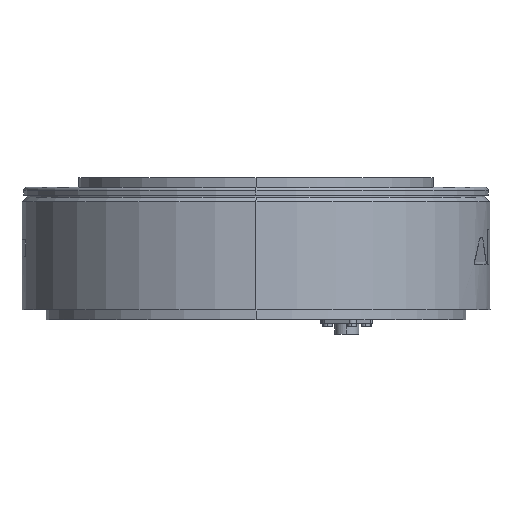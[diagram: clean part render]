
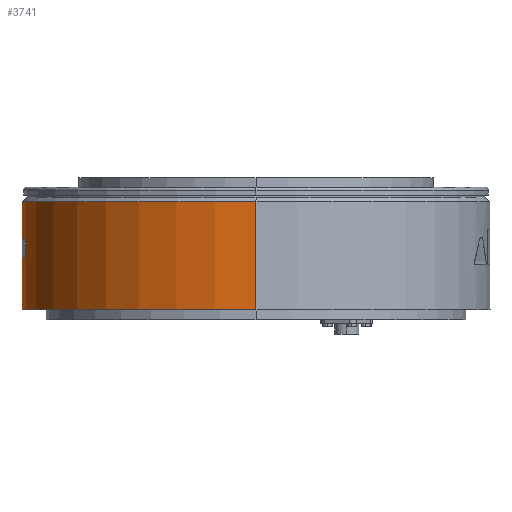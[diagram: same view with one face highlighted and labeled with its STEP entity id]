
A CAD part, left-side view. The second image highlights one B-rep face of the part: STEP entity #3741.
In plain terms, the highlighted cylindrical face has radius 145 mm (diameter 290 mm), a partial arc.
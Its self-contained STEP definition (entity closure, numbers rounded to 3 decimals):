
#23 = CARTESIAN_POINT ( 'NONE',  ( 25., 142.829, 49.5 ) ) ;
#79 = CARTESIAN_POINT ( 'NONE',  ( -145., 0., 73. ) ) ;
#1470 = CIRCLE ( 'NONE', #4140, 145. ) ;
#1474 = LINE ( 'NONE', #6440, #1475 ) ;
#1475 = VECTOR ( 'NONE', #6741, 1000. ) ;
#1624 = VECTOR ( 'NONE', #6086, 1000. ) ;
#1627 = VECTOR ( 'NONE', #6064, 1000. ) ;
#1629 = LINE ( 'NONE', #6071, #1627 ) ;
#1631 = LINE ( 'NONE', #6069, #1624 ) ;
#1632 = CIRCLE ( 'NONE', #4196, 145. ) ;
#1633 = LINE ( 'NONE', #6097, #1634 ) ;
#1634 = VECTOR ( 'NONE', #6098, 1000. ) ;
#1636 = CIRCLE ( 'NONE', #4198, 145. ) ;
#1640 = CIRCLE ( 'NONE', #4195, 145. ) ;
#1758 = CARTESIAN_POINT ( 'NONE',  ( 145., 0., 73. ) ) ;
#1768 = CARTESIAN_POINT ( 'NONE',  ( 145., 0., 6. ) ) ;
#1810 = CARTESIAN_POINT ( 'NONE',  ( -25., 142.829, 39. ) ) ;
#1812 = CARTESIAN_POINT ( 'NONE',  ( -145., 0., 6. ) ) ;
#2282 = FACE_BOUND ( 'NONE', #7133, .T. ) ;
#2284 = CYLINDRICAL_SURFACE ( 'NONE', #4030, 145. ) ;
#2290 = FACE_OUTER_BOUND ( 'NONE', #7156, .T. ) ;
#2478 = ORIENTED_EDGE ( 'NONE', *, *, #7759, .F. ) ;
#2502 = ORIENTED_EDGE ( 'NONE', *, *, #7763, .F. ) ;
#2519 = ORIENTED_EDGE ( 'NONE', *, *, #7764, .F. ) ;
#2523 = ORIENTED_EDGE ( 'NONE', *, *, #7653, .F. ) ;
#2548 = ORIENTED_EDGE ( 'NONE', *, *, #7761, .F. ) ;
#2683 = ORIENTED_EDGE ( 'NONE', *, *, #7762, .T. ) ;
#2765 = ORIENTED_EDGE ( 'NONE', *, *, #7760, .F. ) ;
#2828 = ORIENTED_EDGE ( 'NONE', *, *, #7657, .T. ) ;
#2918 = CARTESIAN_POINT ( 'NONE',  ( -25., 142.829, 49.5 ) ) ;
#2972 = CARTESIAN_POINT ( 'NONE',  ( 25., 142.829, 39. ) ) ;
#3741 = ADVANCED_FACE ( 'NONE', ( #2282, #2290 ), #2284, .T. ) ;
#4030 = AXIS2_PLACEMENT_3D ( 'NONE', #5332, #5316, #5343 ) ;
#4140 = AXIS2_PLACEMENT_3D ( 'NONE', #6261, #6594, #6453 ) ;
#4195 = AXIS2_PLACEMENT_3D ( 'NONE', #6062, #6090, #6082 ) ;
#4196 = AXIS2_PLACEMENT_3D ( 'NONE', #6099, #6068, #6085 ) ;
#4198 = AXIS2_PLACEMENT_3D ( 'NONE', #6083, #6101, #6075 ) ;
#4252 = VERTEX_POINT ( 'NONE', #2972 ) ;
#4280 = VERTEX_POINT ( 'NONE', #2918 ) ;
#4363 = VERTEX_POINT ( 'NONE', #23 ) ;
#4369 = VERTEX_POINT ( 'NONE', #79 ) ;
#4463 = VERTEX_POINT ( 'NONE', #1768 ) ;
#4470 = VERTEX_POINT ( 'NONE', #1758 ) ;
#4486 = VERTEX_POINT ( 'NONE', #1812 ) ;
#4526 = VERTEX_POINT ( 'NONE', #1810 ) ;
#5316 = DIRECTION ( 'NONE',  ( 0., 0., -1. ) ) ;
#5332 = CARTESIAN_POINT ( 'NONE',  ( 0., 0., 0. ) ) ;
#5343 = DIRECTION ( 'NONE',  ( -1., 0., 0. ) ) ;
#6062 = CARTESIAN_POINT ( 'NONE',  ( 0., 0., 6. ) ) ;
#6064 = DIRECTION ( 'NONE',  ( 0., 0., 1. ) ) ;
#6068 = DIRECTION ( 'NONE',  ( 0., 0., -1. ) ) ;
#6069 = CARTESIAN_POINT ( 'NONE',  ( -145., 0., 0. ) ) ;
#6071 = CARTESIAN_POINT ( 'NONE',  ( -25., 142.829, 0. ) ) ;
#6075 = DIRECTION ( 'NONE',  ( -1., 0., 0. ) ) ;
#6082 = DIRECTION ( 'NONE',  ( -1., 0., 0. ) ) ;
#6083 = CARTESIAN_POINT ( 'NONE',  ( 0., 0., 73. ) ) ;
#6085 = DIRECTION ( 'NONE',  ( 1., 0., 0. ) ) ;
#6086 = DIRECTION ( 'NONE',  ( 0., 0., -1. ) ) ;
#6090 = DIRECTION ( 'NONE',  ( 0., 0., -1. ) ) ;
#6097 = CARTESIAN_POINT ( 'NONE',  ( 25., 142.829, 0. ) ) ;
#6098 = DIRECTION ( 'NONE',  ( 0., 0., -1. ) ) ;
#6099 = CARTESIAN_POINT ( 'NONE',  ( 0., 0., 49.5 ) ) ;
#6101 = DIRECTION ( 'NONE',  ( 0., 0., -1. ) ) ;
#6261 = CARTESIAN_POINT ( 'NONE',  ( 0., 0., 39. ) ) ;
#6440 = CARTESIAN_POINT ( 'NONE',  ( 145., 0., 0. ) ) ;
#6453 = DIRECTION ( 'NONE',  ( -1., 0., 0. ) ) ;
#6594 = DIRECTION ( 'NONE',  ( 0., 0., 1. ) ) ;
#6741 = DIRECTION ( 'NONE',  ( 0., 0., -1. ) ) ;
#7133 = EDGE_LOOP ( 'NONE', ( #2502, #2523, #2548, #2478 ) ) ;
#7156 = EDGE_LOOP ( 'NONE', ( #2683, #2828, #2519, #2765 ) ) ;
#7653 = EDGE_CURVE ( 'NONE', #4252, #4526, #1470, .T. ) ;
#7657 = EDGE_CURVE ( 'NONE', #4470, #4463, #1474, .T. ) ;
#7759 = EDGE_CURVE ( 'NONE', #4280, #4363, #1632, .T. ) ;
#7760 = EDGE_CURVE ( 'NONE', #4369, #4486, #1631, .T. ) ;
#7761 = EDGE_CURVE ( 'NONE', #4363, #4252, #1633, .T. ) ;
#7762 = EDGE_CURVE ( 'NONE', #4369, #4470, #1636, .T. ) ;
#7763 = EDGE_CURVE ( 'NONE', #4526, #4280, #1629, .T. ) ;
#7764 = EDGE_CURVE ( 'NONE', #4486, #4463, #1640, .T. ) ;
